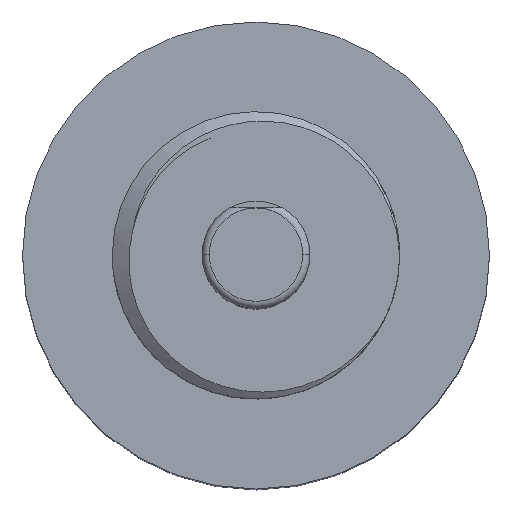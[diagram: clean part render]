
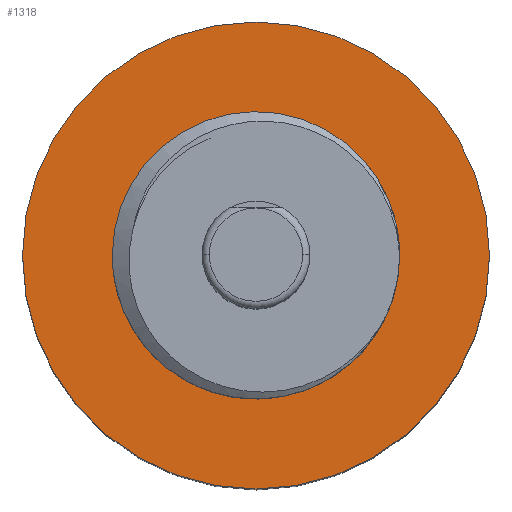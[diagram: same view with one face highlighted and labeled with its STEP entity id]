
A CAD part, top view. The second image highlights one B-rep face of the part: STEP entity #1318.
In plain terms, the highlighted planar face has unit normal (0, 0, 1).
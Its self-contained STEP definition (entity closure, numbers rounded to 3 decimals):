
#62 = AXIS2_PLACEMENT_3D ( 'NONE', #1467, #573, #466 ) ;
#75 = DIRECTION ( 'NONE',  ( 0., 0., -1. ) ) ;
#201 = CARTESIAN_POINT ( 'NONE',  ( 0., 0., -13.9 ) ) ;
#294 = EDGE_CURVE ( 'NONE', #744, #1004, #962, .T. ) ;
#331 = ORIENTED_EDGE ( 'NONE', *, *, #633, .F. ) ;
#394 = VERTEX_POINT ( 'NONE', #401 ) ;
#401 = CARTESIAN_POINT ( 'NONE',  ( 3.333, 0., -13.9 ) ) ;
#406 = CARTESIAN_POINT ( 'NONE',  ( 0., 0., -13.9 ) ) ;
#415 = DIRECTION ( 'NONE',  ( -1., 0., 0. ) ) ;
#427 = CARTESIAN_POINT ( 'NONE',  ( 0., -3.333, -13.9 ) ) ;
#458 = DIRECTION ( 'NONE',  ( -1., 0., 0. ) ) ;
#466 = DIRECTION ( 'NONE',  ( -1., 0., 0. ) ) ;
#505 = PLANE ( 'NONE',  #1325 ) ;
#561 = ORIENTED_EDGE ( 'NONE', *, *, #1231, .T. ) ;
#563 = CARTESIAN_POINT ( 'NONE',  ( -3.333, 0., -13.9 ) ) ;
#573 = DIRECTION ( 'NONE',  ( 0., 0., -1. ) ) ;
#598 = DIRECTION ( 'NONE',  ( -1., 0., 0. ) ) ;
#599 = EDGE_CURVE ( 'NONE', #836, #394, #1353, .T. ) ;
#633 = EDGE_CURVE ( 'NONE', #1004, #744, #1016, .T. ) ;
#744 = VERTEX_POINT ( 'NONE', #912 ) ;
#761 = DIRECTION ( 'NONE',  ( 0., 0., -1. ) ) ;
#836 = VERTEX_POINT ( 'NONE', #563 ) ;
#864 = EDGE_LOOP ( 'NONE', ( #1610, #331 ) ) ;
#912 = CARTESIAN_POINT ( 'NONE',  ( -6.5, 0., -13.9 ) ) ;
#915 = DIRECTION ( 'NONE',  ( -1., 0., 0. ) ) ;
#957 = AXIS2_PLACEMENT_3D ( 'NONE', #201, #75, #598 ) ;
#962 = CIRCLE ( 'NONE', #1297, 6.5 ) ;
#1004 = VERTEX_POINT ( 'NONE', #1349 ) ;
#1016 = CIRCLE ( 'NONE', #1272, 6.5 ) ;
#1139 = CIRCLE ( 'NONE', #957, 3.333 ) ;
#1166 = DIRECTION ( 'NONE',  ( 0., 0., -1. ) ) ;
#1190 = FACE_BOUND ( 'NONE', #1401, .T. ) ;
#1231 = EDGE_CURVE ( 'NONE', #394, #836, #1139, .T. ) ;
#1272 = AXIS2_PLACEMENT_3D ( 'NONE', #1342, #1601, #458 ) ;
#1297 = AXIS2_PLACEMENT_3D ( 'NONE', #406, #1166, #915 ) ;
#1318 = ADVANCED_FACE ( 'NONE', ( #1395, #1190 ), #505, .F. ) ;
#1325 = AXIS2_PLACEMENT_3D ( 'NONE', #427, #761, #415 ) ;
#1342 = CARTESIAN_POINT ( 'NONE',  ( 0., 0., -13.9 ) ) ;
#1349 = CARTESIAN_POINT ( 'NONE',  ( 6.5, 0., -13.9 ) ) ;
#1353 = CIRCLE ( 'NONE', #62, 3.333 ) ;
#1382 = ORIENTED_EDGE ( 'NONE', *, *, #599, .T. ) ;
#1395 = FACE_OUTER_BOUND ( 'NONE', #864, .T. ) ;
#1401 = EDGE_LOOP ( 'NONE', ( #1382, #561 ) ) ;
#1467 = CARTESIAN_POINT ( 'NONE',  ( 0., 0., -13.9 ) ) ;
#1601 = DIRECTION ( 'NONE',  ( 0., 0., -1. ) ) ;
#1610 = ORIENTED_EDGE ( 'NONE', *, *, #294, .F. ) ;
